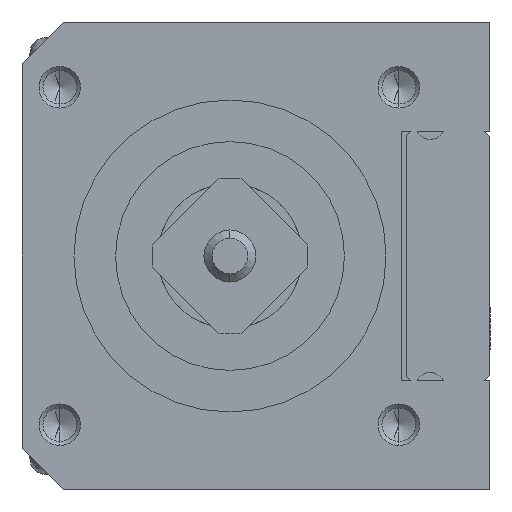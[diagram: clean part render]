
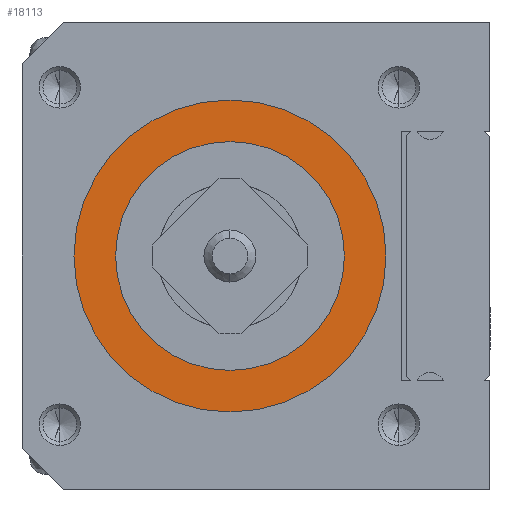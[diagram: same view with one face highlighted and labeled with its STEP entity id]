
A CAD part, left-side view. The second image highlights one B-rep face of the part: STEP entity #18113.
In plain terms, the highlighted planar face has unit normal (-1, 0, 0).
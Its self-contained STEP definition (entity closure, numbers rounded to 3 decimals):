
#791 = CIRCLE ( 'NONE', #7422, 11. ) ;
#1195 = CIRCLE ( 'NONE', #7521, 11. ) ;
#1430 = CIRCLE ( 'NONE', #16573, 15. ) ;
#1657 = FACE_OUTER_BOUND ( 'NONE', #13143, .T. ) ;
#1658 = FACE_BOUND ( 'NONE', #13149, .T. ) ;
#3175 = CIRCLE ( 'NONE', #7566, 15. ) ;
#3401 = ORIENTED_EDGE ( 'NONE', *, *, #14548, .T. ) ;
#3403 = ORIENTED_EDGE ( 'NONE', *, *, #7153, .F. ) ;
#3405 = ORIENTED_EDGE ( 'NONE', *, *, #6901, .F. ) ;
#3411 = ORIENTED_EDGE ( 'NONE', *, *, #7326, .T. ) ;
#6901 = EDGE_CURVE ( 'NONE', #9291, #9356, #791, .T. ) ;
#7153 = EDGE_CURVE ( 'NONE', #9356, #9291, #1195, .T. ) ;
#7326 = EDGE_CURVE ( 'NONE', #17589, #9442, #3175, .T. ) ;
#7422 = AXIS2_PLACEMENT_3D ( 'NONE', #16116, #16115, #16114 ) ;
#7521 = AXIS2_PLACEMENT_3D ( 'NONE', #7816, #7817, #7818 ) ;
#7566 = AXIS2_PLACEMENT_3D ( 'NONE', #8207, #8208, #8209 ) ;
#7816 = CARTESIAN_POINT ( 'NONE',  ( -40., 25., 0. ) ) ;
#7817 = DIRECTION ( 'NONE',  ( -1., 0., 0. ) ) ;
#7818 = DIRECTION ( 'NONE',  ( 0., 0., 1. ) ) ;
#8207 = CARTESIAN_POINT ( 'NONE',  ( -40., 25., 0. ) ) ;
#8208 = DIRECTION ( 'NONE',  ( -1., 0., 0. ) ) ;
#8209 = DIRECTION ( 'NONE',  ( 0., 0., 1. ) ) ;
#8680 = CARTESIAN_POINT ( 'NONE',  ( -40., 25., -11. ) ) ;
#8745 = CARTESIAN_POINT ( 'NONE',  ( -40., 25., 11. ) ) ;
#8817 = CARTESIAN_POINT ( 'NONE',  ( -40., 25., -15. ) ) ;
#9291 = VERTEX_POINT ( 'NONE', #8680 ) ;
#9356 = VERTEX_POINT ( 'NONE', #8745 ) ;
#9442 = VERTEX_POINT ( 'NONE', #8817 ) ;
#13143 = EDGE_LOOP ( 'NONE', ( #3411, #3401 ) ) ;
#13149 = EDGE_LOOP ( 'NONE', ( #3403, #3405 ) ) ;
#14548 = EDGE_CURVE ( 'NONE', #9442, #17589, #1430, .T. ) ;
#14971 = CARTESIAN_POINT ( 'NONE',  ( -40., 25., 0. ) ) ;
#14972 = DIRECTION ( 'NONE',  ( -1., 0., 0. ) ) ;
#14973 = DIRECTION ( 'NONE',  ( 0., 0., 1. ) ) ;
#15108 = CARTESIAN_POINT ( 'NONE',  ( -40., 25., 15. ) ) ;
#15711 = PLANE ( 'NONE',  #16693 ) ;
#15712 = CARTESIAN_POINT ( 'NONE',  ( -40., 0., 0. ) ) ;
#15713 = DIRECTION ( 'NONE',  ( 1., 0., 0. ) ) ;
#15714 = DIRECTION ( 'NONE',  ( 0., 0., -1. ) ) ;
#16114 = DIRECTION ( 'NONE',  ( 0., 0., 1. ) ) ;
#16115 = DIRECTION ( 'NONE',  ( -1., 0., 0. ) ) ;
#16116 = CARTESIAN_POINT ( 'NONE',  ( -40., 25., 0. ) ) ;
#16573 = AXIS2_PLACEMENT_3D ( 'NONE', #14971, #14972, #14973 ) ;
#16693 = AXIS2_PLACEMENT_3D ( 'NONE', #15712, #15713, #15714 ) ;
#17589 = VERTEX_POINT ( 'NONE', #15108 ) ;
#18113 = ADVANCED_FACE ( 'NONE', ( #1657, #1658 ), #15711, .F. ) ;
